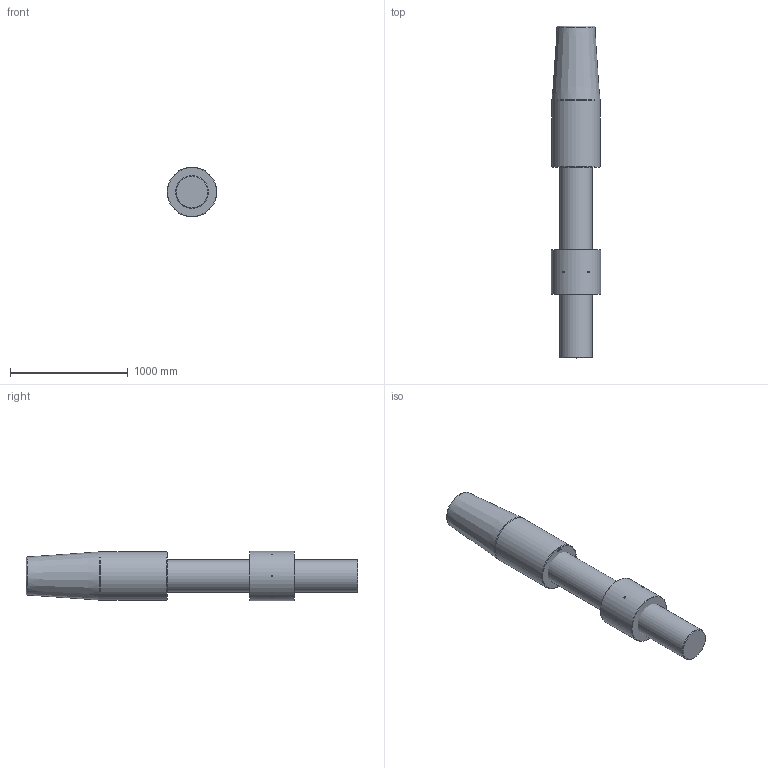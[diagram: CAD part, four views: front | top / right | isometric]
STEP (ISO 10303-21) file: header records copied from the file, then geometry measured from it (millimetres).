
FILE_DESCRIPTION(/* description */ (''),/* implementation_level */ '2;1');
FILE_NAME(/* name */ 'C:\Users\ranca\Desktop\CYM\ARRANGEMENT\CYM140 52 061 0.stp',/* time_stamp */ '2021-04-23T21:26:35+02:00',/* author */ ('ranca'),/* organization */ (''),/* preprocessor_version */ 'ST-DEVELOPER v16.13',/* originating_system */ 'Autodesk Inventor 2018',/* authorisation */ '');
FILE_SCHEMA (('AUTOMOTIVE_DESIGN { 1 0 10303 214 3 1 1 }'));
Length unit declared in the file: millimetre
Products named in the file (4): CYM140-52-061-0; CYM012-52-061-0_ROD; CYC140 52 065 0_CYL SOK_RH; CYM140-41-051-0
Assembly tree (3 placements, depth 2):
  CYM140-52-061-0
    CYM012-52-061-0_ROD
    CYC140 52 065 0_CYL SOK_RH
    CYM140-41-051-0
Bounding box: 420 x 2820 x 420 mm (x, y, z)
Volume: 317582582.5 mm3; surface area: 4324408.7 mm2
Topology: 3 solids, 3 shells, 486 faces, 1297 edges, 862 vertices
Faces by surface type: plane 265, bspline 199, cone 11, cylinder 9, torus 2
Full cylindrical faces by diameter (mm): 15 x6, 280 x1, 410 x1, 420 x1
Entity records: 16186 total; most frequent: CARTESIAN_POINT 5429, ORIENTED_EDGE 2536, DIRECTION 1469, EDGE_CURVE 1268, VERTEX_POINT 856, LINE 837, VECTOR 837, EDGE_LOOP 554
